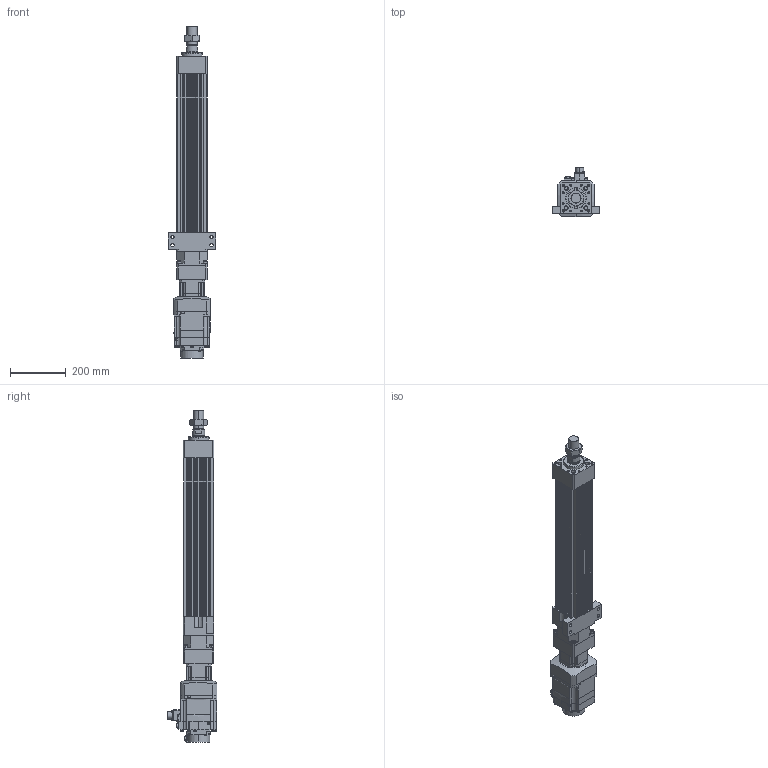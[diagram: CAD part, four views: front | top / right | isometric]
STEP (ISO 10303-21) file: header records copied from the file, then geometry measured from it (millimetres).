
FILE_DESCRIPTION (( 'STEP AP203' ), '1' );
FILE_NAME ('HES110NS(HS)-S400-W010G00-M-FFC.STEP', '2026-06-10T06:03:16', ( 'tms' ), ( '' ), 'SwSTEP 2.0', 'SolidWorks 2013', '' );
FILE_SCHEMA (( 'CONFIG_CONTROL_DESIGN' ));
Length unit declared in the file: millimetre
Products named in the file (8): HES110NS(HS)-S400-W010G00-M-FFC; M36X1.5P; HG-SR102B; HES110-S-G90; AB0902; HES110-FFC-400; AB0901; HES110-M-ROD-400
Assembly tree (7 placements, depth 2):
  HES110NS(HS)-S400-W010G00-M-FFC
    HES110-FFC-400
    HES110-M-ROD-400
    M36X1.5P
    HES110-S-G90
    AB0901
    AB0902
    HG-SR102B
Bounding box: 170 x 177.49 x 1193 mm (x, y, z)
Volume: 7981605.7 mm3; surface area: 1045443.7 mm2
Topology: 5 solids, 12 shells, 1228 faces, 3114 edges, 2013 vertices
Faces by surface type: cylinder 568, plane 554, cone 92, bspline 10, torus 4
Entity records: 39020 total; most frequent: CARTESIAN_POINT 7659, DIRECTION 6711, ORIENTED_EDGE 6152, EDGE_CURVE 3086, AXIS2_PLACEMENT_3D 2489, VERTEX_POINT 2013, LINE 1733, VECTOR 1733
